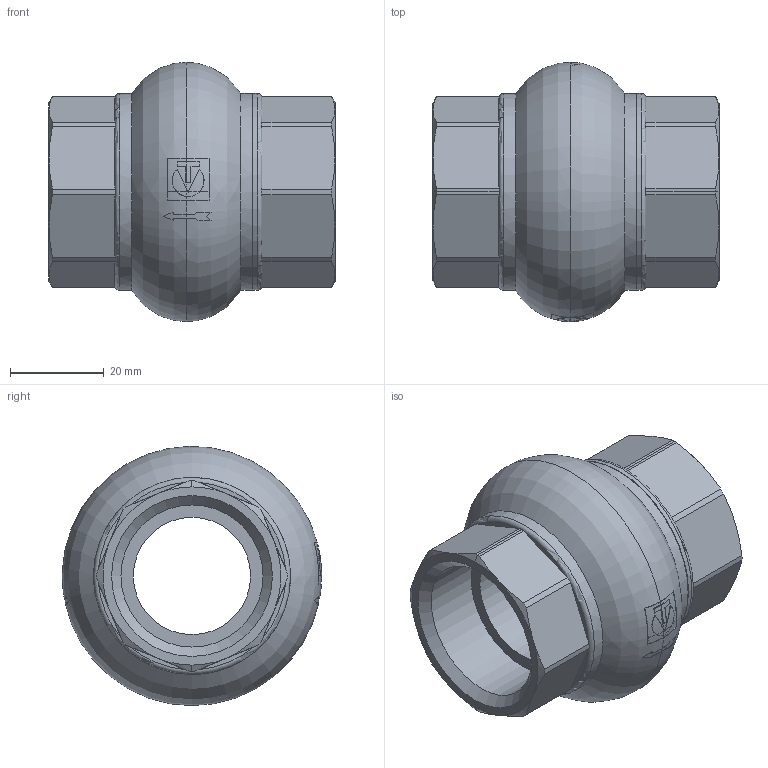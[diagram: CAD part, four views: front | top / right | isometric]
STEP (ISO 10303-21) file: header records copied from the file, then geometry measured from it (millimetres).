
FILE_DESCRIPTION(('TFLEX Exchange Step'),'2;1');
FILE_NAME('Check valve DN25, 1 VT.151.N.06 Valtec.stp', '2023-09-12T13:14:32+03:00',('denis'),('Unknown organisation'),'TFLEX Exchange 2023.0','T-FLEX CAD','Unknown authorisation');
FILE_SCHEMA( ('AUTOMOTIVE_DESIGN { 1 0 10303 214 1 1 1 1 }') );
Length unit declared in the file: millimetre
Products named in the file (1): Nodes
Bounding box: 61 x 55.28 x 55.28 mm (x, y, z)
Volume: 58307.7 mm3; surface area: 15948.6 mm2
Topology: 1 solids, 1 shells, 160 faces, 479 edges, 325 vertices
Faces by surface type: plane 86, cylinder 29, cone 22, torus 22, bspline 1
Full cylindrical faces by diameter (mm): 25 x1, 30.3 x2, 41.8 x1, 42 x3
Entity records: 9716 total; most frequent: CARTESIAN_POINT 5696, ORIENTED_EDGE 958, DIRECTION 706, EDGE_CURVE 479, VERTEX_POINT 325, AXIS2_PLACEMENT_3D 279, B_SPLINE_CURVE_WITH_KNOTS 178, EDGE_LOOP 166
